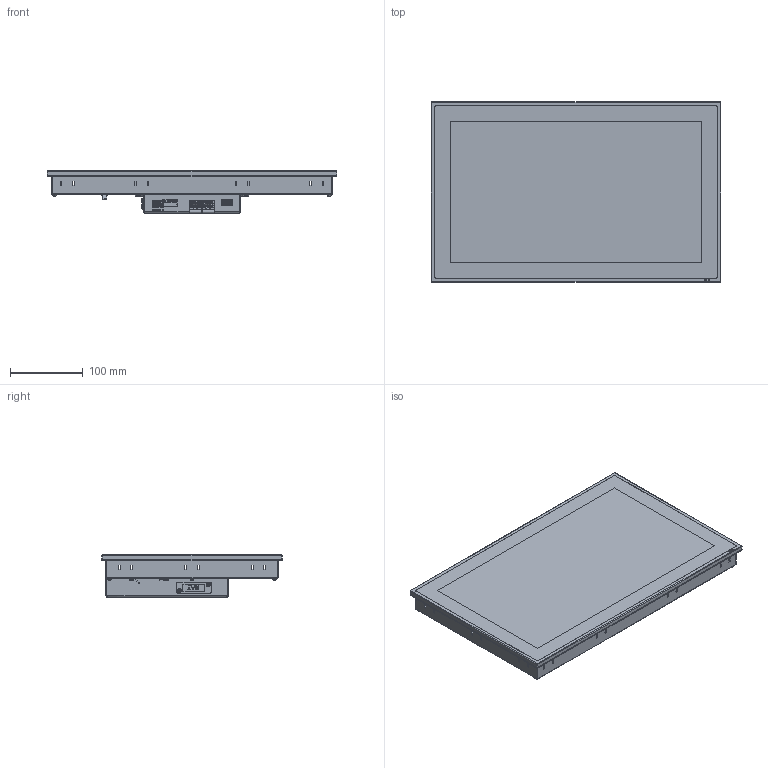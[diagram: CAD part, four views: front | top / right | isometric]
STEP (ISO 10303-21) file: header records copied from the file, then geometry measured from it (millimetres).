
FILE_DESCRIPTION (( 'STEP AP214' ), '1' );
FILE_NAME ('ETT1534 (01-230-1534) 20190408.STEP', '2019-04-08T14:19:56', ( 'Windows-Benutzer' ), ( '' ), 'SwSTEP 2.0', 'SolidWorks 2018', '' );
FILE_SCHEMA (( 'AUTOMOTIVE_DESIGN' ));
Length unit declared in the file: millimetre
Products named in the file (1): ETT1534 (01-230-1534) 20190408
Bounding box: 398.5 x 248 x 58 mm (x, y, z)
Surface area: 763023.3 mm2 (no closed solid volume)
Topology: 0 solids, 78 shells, 6512 faces, 17189 edges, 10961 vertices
Faces by surface type: plane 3972, cylinder 1698, bspline 373, cone 354, torus 87, sphere 28
Full cylindrical faces by diameter (mm): 0.2 x1, 0.9 x1
Entity records: 286577 total; most frequent: CARTESIAN_POINT 53720, ORIENTED_EDGE 34284, DIRECTION 31809, EDGE_CURVE 17147, VECTOR 12137, LINE 12137, VERTEX_POINT 10961, AXIS2_PLACEMENT_3D 9836
